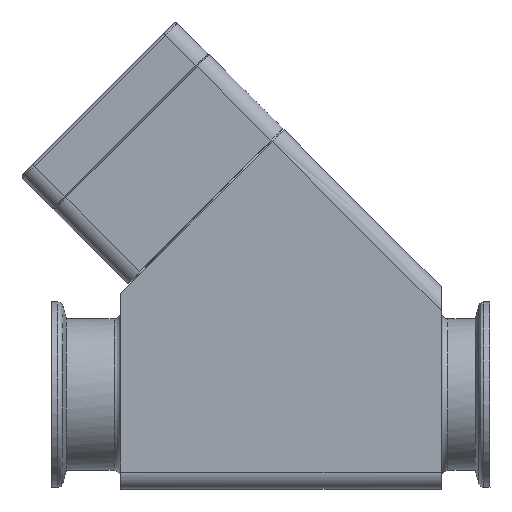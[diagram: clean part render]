
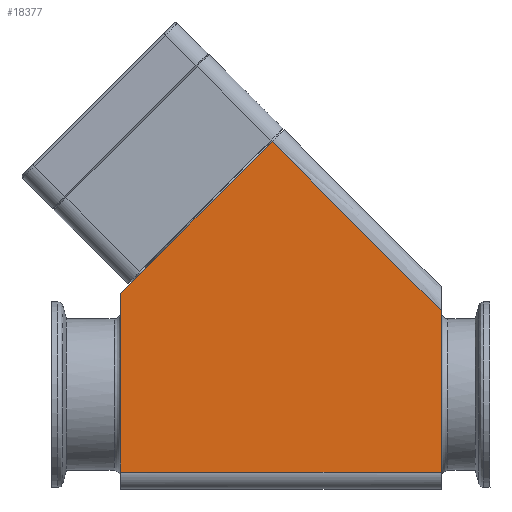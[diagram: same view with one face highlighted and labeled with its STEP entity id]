
A CAD part, top view. The second image highlights one B-rep face of the part: STEP entity #18377.
In plain terms, the highlighted free-form (B-spline) face has degree [1, 1] with [2, 2] control points.
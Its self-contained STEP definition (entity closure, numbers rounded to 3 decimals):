
#18242=CARTESIAN_POINT('V5',(95.,52.853,
   65.0));
#18243=VERTEX_POINT('V5',#18242);
#18284=CARTESIAN_POINT('V4',(95.,5.,
   65.0));
#18285=VERTEX_POINT('V4',#18284);
#18299=CARTESIAN_POINT('E4',(95.,52.853,
   65.0));
#18300=CARTESIAN_POINT('E4',(95.0,5.,65.0));
#18301=B_SPLINE_CURVE_WITH_KNOTS('E4',1,(#18299,#18300),
   .POLYLINE_FORM.,.F.,.U.,(2,2),(0.118,
   0.917),.UNSPECIFIED.);
#18302=EDGE_CURVE('E4',#18243,#18285,#18301,.T.);
#18326=CARTESIAN_POINT('V3',(0.0,5.,65.0));
#18327=VERTEX_POINT('V3',#18326);
#18341=CARTESIAN_POINT('E3',(0.0,5.,65.0));
#18342=CARTESIAN_POINT('E3',(95.,5.,
   65.0));
#18343=B_SPLINE_CURVE_WITH_KNOTS('E3',1,(#18341,#18342),
   .POLYLINE_FORM.,.F.,.U.,(2,2),(2.,
   14.096),.UNSPECIFIED.);
#18344=EDGE_CURVE('E3',#18327,#18285,#18343,.T.);
#18349=CARTESIAN_POINT('F1',(-4.75,-5.448,
   65.0));
#18350=CARTESIAN_POINT('F1',(99.75,-5.448,
   65.0));
#18351=CARTESIAN_POINT('F1',(-4.75,114.41,
   65.));
#18352=CARTESIAN_POINT('F1',(99.75,114.41,
   65.));
#18353=QUASI_UNIFORM_SURFACE('F1',1,1,((#18349,#18351),(#18350,
   #18352)),.PLANE_SURF.,.F.,.F.,.U.);
#18354=CARTESIAN_POINT('V1',(44.901,102.952,
   65.));
#18355=VERTEX_POINT('V1',#18354);
#18356=CARTESIAN_POINT('V2',(0.,58.05,65.0)
   );
#18357=VERTEX_POINT('V2',#18356);
#18358=CARTESIAN_POINT('E1',(44.901,102.952,
   65.));
#18359=CARTESIAN_POINT('E1',(0.,58.05,
   65.));
#18360=QUASI_UNIFORM_CURVE('E1',1,(#18358,#18359),.POLYLINE_FORM.,
   .F.,.U.);
#18361=EDGE_CURVE('E1',#18355,#18357,#18360,.T.);
#18362=ORIENTED_EDGE('E1',*,*,#18361,.F.);
#18363=CARTESIAN_POINT('E5',(95.,52.853,
   65.0));
#18364=CARTESIAN_POINT('E5',(44.901,102.952,
   65.));
#18365=B_SPLINE_CURVE_WITH_KNOTS('E5',1,(#18363,#18364),
   .POLYLINE_FORM.,.F.,.U.,(2,2),(2.0,11.021),
   .UNSPECIFIED.);
#18366=EDGE_CURVE('E5',#18243,#18355,#18365,.T.);
#18367=ORIENTED_EDGE('E5',*,*,#18366,.F.);
#18368=ORIENTED_EDGE('F29',*,*,#18302,.T.);
#18369=ORIENTED_EDGE('F6',*,*,#18344,.F.);
#18370=CARTESIAN_POINT('E2',(0.0,5.,65.0));
#18371=CARTESIAN_POINT('E2',(0.0,58.05,65.0));
#18372=B_SPLINE_CURVE_WITH_KNOTS('E2',1,(#18370,#18371),
   .POLYLINE_FORM.,.F.,.U.,(2,2),(0.079,
   0.921),.UNSPECIFIED.);
#18373=EDGE_CURVE('E2',#18327,#18357,#18372,.T.);
#18374=ORIENTED_EDGE('E2',*,*,#18373,.T.);
#18375=EDGE_LOOP('F1',(#18362,#18367,#18368,#18369,#18374));
#18376=FACE_OUTER_BOUND('F1',#18375,.F.);
#18377=ADVANCED_FACE('F1',(#18376),#18353,.T.);
